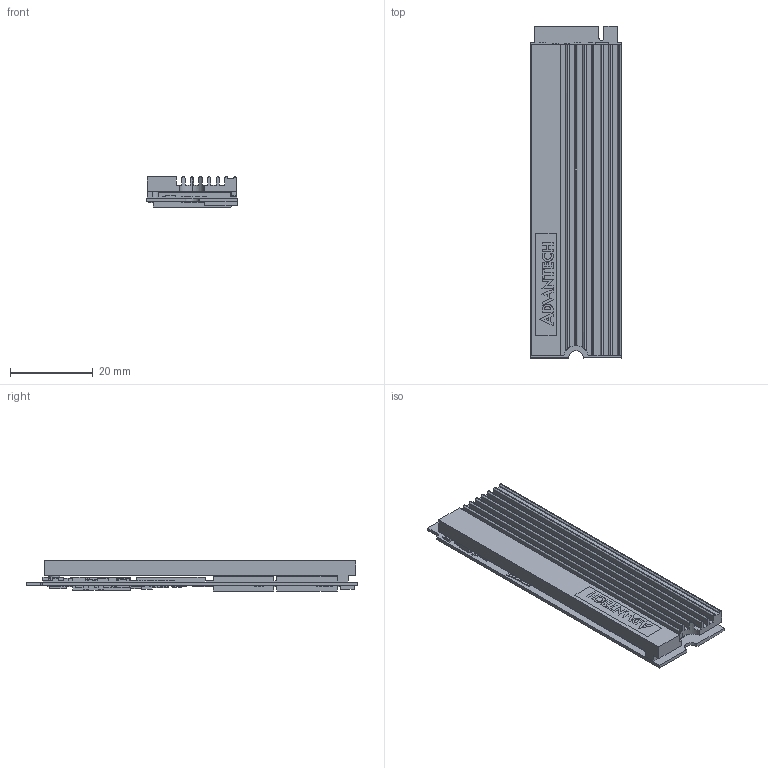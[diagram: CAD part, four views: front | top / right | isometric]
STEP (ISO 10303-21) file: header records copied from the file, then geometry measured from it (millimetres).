
FILE_DESCRIPTION (( 'STEP AP214' ), '1' );
FILE_NAME ('SQF-CM8 920-20190530.STEP', '2019-05-30T01:57:14', ( '' ), ( '' ), 'SwSTEP 2.0', 'SolidWorks 2016', '' );
FILE_SCHEMA (( 'AUTOMOTIVE_DESIGN' ));
Length unit declared in the file: millimetre
Products named in the file (1): SQF-CM8 920-20190530
Bounding box: 22 x 80 x 7.3 mm (x, y, z)
Volume: 8223.7 mm3; surface area: 14399.7 mm2
Topology: 246 solids, 246 shells, 1636 faces, 3396 edges, 2266 vertices
Faces by surface type: plane 1593, cylinder 32, bspline 11
Entity records: 62953 total; most frequent: CARTESIAN_POINT 7638, ORIENTED_EDGE 6792, DIRECTION 6678, EDGE_CURVE 3396, LINE 3298, VECTOR 3298, VERTEX_POINT 2266, UNCERTAINTY_MEASURE_WITH_UNIT 1884
